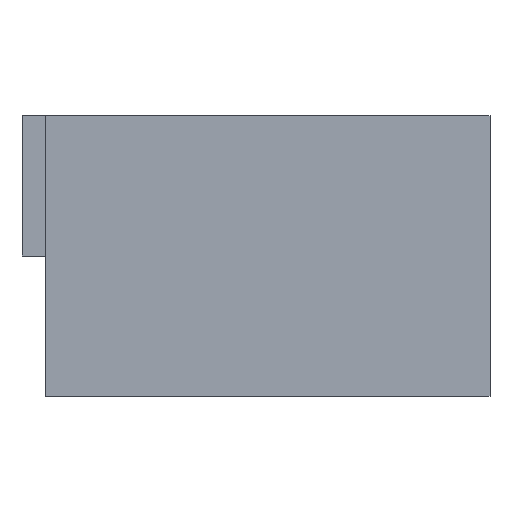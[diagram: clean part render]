
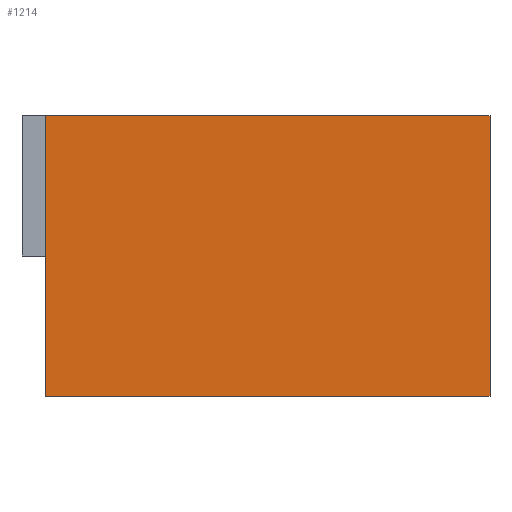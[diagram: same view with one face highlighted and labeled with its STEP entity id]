
A CAD part, front view. The second image highlights one B-rep face of the part: STEP entity #1214.
In plain terms, the highlighted planar face has unit normal (0, -1, 0).
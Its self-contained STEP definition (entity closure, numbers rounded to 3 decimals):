
#117=CARTESIAN_POINT('Vertex',(56.,-60.,11.25)) ;
#120=CARTESIAN_POINT('Line Origine',(65.5,-60.,11.25)) ;
#124=CARTESIAN_POINT('Vertex',(75.,-60.,11.25)) ;
#686=CARTESIAN_POINT('Vertex',(75.,-60.,-0.75)) ;
#689=CARTESIAN_POINT('Line Origine',(65.5,-60.,-0.75)) ;
#693=CARTESIAN_POINT('Vertex',(56.,-60.,-0.75)) ;
#1182=CARTESIAN_POINT('Line Origine',(75.,-60.,5.25)) ;
#1198=CARTESIAN_POINT('Axis2P3D Location',(75.,-60.,-0.75)) ;
#1203=CARTESIAN_POINT('Line Origine',(56.,-60.,5.25)) ;
#121=DIRECTION('Vector Direction',(-1.,0.,0.)) ;
#690=DIRECTION('Vector Direction',(-1.,0.,0.)) ;
#1183=DIRECTION('Vector Direction',(0.,0.,1.)) ;
#1199=DIRECTION('Axis2P3D Direction',(-0.,-1.,0.)) ;
#1200=DIRECTION('Axis2P3D XDirection',(0.,0.,1.)) ;
#1204=DIRECTION('Vector Direction',(0.,0.,-1.)) ;
#1201=AXIS2_PLACEMENT_3D('Plane Axis2P3D',#1198,#1199,#1200) ;
#1209=ORIENTED_EDGE('',*,*,#695,.F.) ;
#1210=ORIENTED_EDGE('',*,*,#1186,.F.) ;
#1211=ORIENTED_EDGE('',*,*,#126,.T.) ;
#1212=ORIENTED_EDGE('',*,*,#1207,.T.) ;
#122=VECTOR('Line Direction',#121,1.) ;
#691=VECTOR('Line Direction',#690,1.) ;
#1184=VECTOR('Line Direction',#1183,1.) ;
#1205=VECTOR('Line Direction',#1204,1.) ;
#1214=ADVANCED_FACE('Corps principal',(#1213),#1202,.T.) ;
#126=EDGE_CURVE('',#125,#118,#123,.T.) ;
#695=EDGE_CURVE('',#687,#694,#692,.T.) ;
#1186=EDGE_CURVE('',#125,#687,#1185,.F.) ;
#1207=EDGE_CURVE('',#118,#694,#1206,.T.) ;
#1208=EDGE_LOOP('',(#1209,#1210,#1211,#1212)) ;
#1213=FACE_OUTER_BOUND('',#1208,.T.) ;
#123=LINE('Line',#120,#122) ;
#692=LINE('Line',#689,#691) ;
#1185=LINE('Line',#1182,#1184) ;
#1206=LINE('Line',#1203,#1205) ;
#1202=PLANE('Plane',#1201) ;
#118=VERTEX_POINT('',#117) ;
#125=VERTEX_POINT('',#124) ;
#687=VERTEX_POINT('',#686) ;
#694=VERTEX_POINT('',#693) ;
